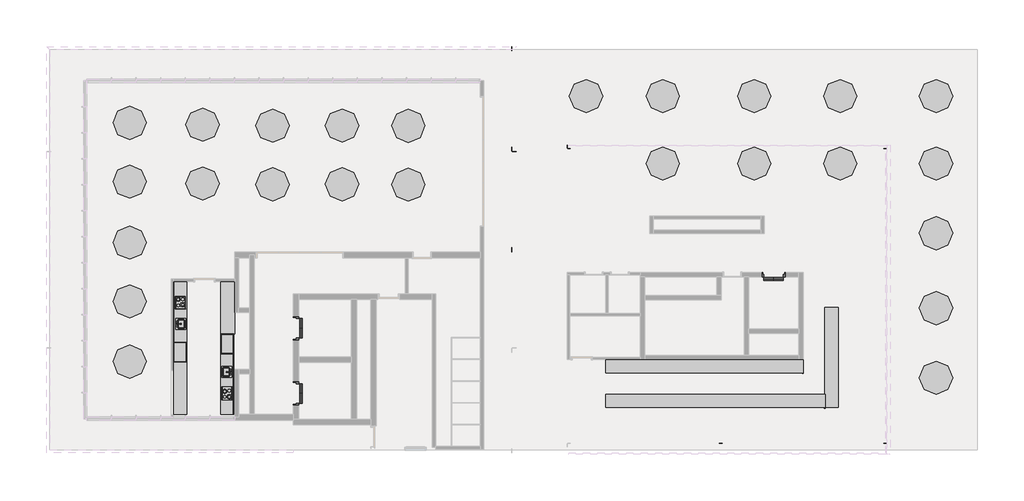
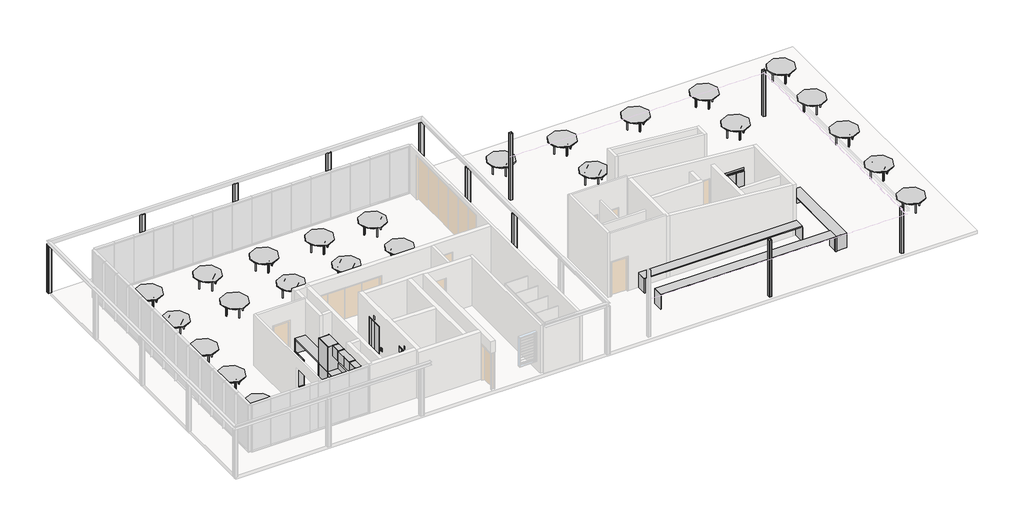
# One storey, part 4 of 4: 32 furniture elements, 11 columns, 3 proxies, 2 flow terminals.
"""IFC4 building model written with IfcOpenShell, lengths in millimetres."""

from ifc_helpers import new_model, si_unit, point, frame, frame_2d, origin, place, context, project, spatial, polyline, circle_curve, trimmed, segment, composite_curve, outline, extrude, transform, mapped, element, save
from components import lift_single_entry_gen_type1_a187540e, lift_single_entry_gen_type1_208d8e88, kitchen_sink_single_plu_7881db86, furniture_600_deep_no_overhang_dde5dc8e, furniture_600_deep_no_overhang_7ea55c78, furniture_600_deep_no_overhang_96a87c3f, furniture_600_deep_no_overhang_b93bba7b, furniture_600_deep_no_overhang_41d87fa4, kitchen_type_02_cas3_kitchen_type_02_3700_78c6b683, table_dining_round_w_chairs_fur1_1525mm_diameter_d4790072

model = new_model("IFC4")

# Units and contexts
model_context = context("Model", 3, world=origin())
ifc_project = project(units=[si_unit("LENGTHUNIT", "METRE", prefix="MILLI")], contexts=[model_context])

# Site, building, storey
site = spatial("IfcSite", under=ifc_project)
building = spatial("IfcBuilding", under=site)
storey = spatial("IfcBuildingStorey", under=building, Name="4階", Elevation=39200.0)

# Proxies
placement = place(None, origin())
lift_single_entry_gen_type1_shape = lift_single_entry_gen_type1_a187540e(model_context)
element("IfcBuildingElementProxy", 1, Name="Lift_Single Entry_GEN : Type1", ObjectType="Lift_Single Entry_GEN : Type1", at=placement, inside=storey, context=model_context, shape_type="MappedRepresentation", body=[
    mapped(lift_single_entry_gen_type1_shape, transform((35936.0728012, 8230.005792, 39200.0), x_axis=(-1.0, 0.0, 0.0), y_axis=(0.0, -1.0, 0.0), z_axis=(0.0, 0.0, 1.0))),
])
lift_single_entry_gen_type1_2_shape = lift_single_entry_gen_type1_208d8e88(model_context)
element("IfcBuildingElementProxy", 2, Name="Lift_Single Entry_GEN : Type1", ObjectType="Lift_Single Entry_GEN : Type1", at=placement, inside=storey, context=model_context, shape_type="MappedRepresentation", body=[
    mapped(lift_single_entry_gen_type1_2_shape, transform((13819.6062665, 5561.0857154, 39200.0), x_axis=(0.0, 1.0, 0.0), y_axis=(-1.0, 0.0, 0.0), z_axis=(0.0, 0.0, 1.0))),
])
element("IfcBuildingElementProxy", 3, Name="Lift_Single Entry_GEN : Type1", ObjectType="Lift_Single Entry_GEN : Type1", at=placement, inside=storey, context=model_context, shape_type="MappedRepresentation", body=[
    mapped(lift_single_entry_gen_type1_2_shape, transform((13819.6062665, 2570.1755331, 39200.0), x_axis=(0.0, 1.0, 0.0), y_axis=(-1.0, 0.0, 0.0), z_axis=(0.0, 0.0, 1.0))),
])

# Columns
element("IfcColumn", 4, ObjectType="SHS-Square Hollow Sections-Column (AS 1163) : 150x150x5.0SHS", at=placement, inside=storey, context=model_context, shape_type="SweptSolid", body=[
    extrude(outline(composite_curve([segment(polyline([(40782.9585166, 335.0), (40782.9585166, 465.0)]), True, "CONTINUOUS"), segment(trimmed(circle_curve(frame_2d((40792.9585166, 465.0)), 10.0), [point((40782.9585166, 465.0))], [point((40792.9585166, 475.0))], False, "CARTESIAN"), True, "CONTINUOUS"), segment(polyline([(40792.9585166, 475.0), (40922.9585166, 475.0)]), True, "CONTINUOUS"), segment(trimmed(circle_curve(frame_2d((40922.9585166, 465.0)), 10.0), [point((40922.9585166, 475.0))], [point((40932.9585166, 465.0))], False, "CARTESIAN"), True, "CONTINUOUS"), segment(polyline([(40932.9585166, 465.0), (40932.9585166, 335.0)]), True, "CONTINUOUS"), segment(trimmed(circle_curve(frame_2d((40922.9585166, 335.0)), 10.0), [point((40932.9585166, 335.0))], [point((40922.9585166, 325.0))], False, "CARTESIAN"), True, "CONTINUOUS"), segment(polyline([(40922.9585166, 325.0), (40792.9585166, 325.0)]), True, "CONTINUOUS"), segment(trimmed(circle_curve(frame_2d((40792.9585166, 335.0)), 10.0), [point((40792.9585166, 325.0))], [point((40782.9585166, 335.0))], False, "CARTESIAN"), True, "CONTINUOUS")], self_intersect=False), holes=[composite_curve([segment(polyline([(40922.9585166, 470.0), (40792.9585166, 470.0)]), True, "CONTINUOUS"), segment(trimmed(circle_curve(frame_2d((40792.9585166, 465.0)), 5.0), [point((40792.9585166, 470.0))], [point((40787.9585166, 465.0))], True, "CARTESIAN"), True, "CONTINUOUS"), segment(polyline([(40787.9585166, 465.0), (40787.9585166, 335.0)]), True, "CONTINUOUS"), segment(trimmed(circle_curve(frame_2d((40792.9585166, 335.0)), 5.0), [point((40787.9585166, 335.0))], [point((40792.9585166, 330.0))], True, "CARTESIAN"), True, "CONTINUOUS"), segment(polyline([(40792.9585166, 330.0), (40922.9585166, 330.0)]), True, "CONTINUOUS"), segment(trimmed(circle_curve(frame_2d((40922.9585166, 335.0)), 5.0), [point((40922.9585166, 330.0))], [point((40927.9585166, 335.0))], True, "CARTESIAN"), True, "CONTINUOUS"), segment(polyline([(40927.9585166, 335.0), (40927.9585166, 465.0)]), True, "CONTINUOUS"), segment(trimmed(circle_curve(frame_2d((40922.9585166, 465.0)), 5.0), [point((40927.9585166, 465.0))], [point((40922.9585166, 470.0))], True, "CARTESIAN"), True, "CONTINUOUS")], self_intersect=False)]), frame((0.0, 0.0, 39200.0), z_axis=(0.0, 0.0, 1.0), x_axis=(1.0, 0.0, 0.0)), (0.0, 0.0, 1.0), 2769.6603043),
])
element("IfcColumn", 5, ObjectType="SHS-Square Hollow Sections-Column (AS 1163) : 150x150x5.0SHS", at=placement, inside=storey, context=model_context, shape_type="SweptSolid", body=[
    extrude(outline(composite_curve([segment(polyline([(33227.1585166, 335.0), (33227.1585166, 465.0)]), True, "CONTINUOUS"), segment(trimmed(circle_curve(frame_2d((33237.1585166, 465.0)), 10.0), [point((33227.1585166, 465.0))], [point((33237.1585166, 475.0))], False, "CARTESIAN"), True, "CONTINUOUS"), segment(polyline([(33237.1585166, 475.0), (33367.1585166, 475.0)]), True, "CONTINUOUS"), segment(trimmed(circle_curve(frame_2d((33367.1585166, 465.0)), 10.0), [point((33367.1585166, 475.0))], [point((33377.1585166, 465.0))], False, "CARTESIAN"), True, "CONTINUOUS"), segment(polyline([(33377.1585166, 465.0), (33377.1585166, 335.0)]), True, "CONTINUOUS"), segment(trimmed(circle_curve(frame_2d((33367.1585166, 335.0)), 10.0), [point((33377.1585166, 335.0))], [point((33367.1585166, 325.0))], False, "CARTESIAN"), True, "CONTINUOUS"), segment(polyline([(33367.1585166, 325.0), (33237.1585166, 325.0)]), True, "CONTINUOUS"), segment(trimmed(circle_curve(frame_2d((33237.1585166, 335.0)), 10.0), [point((33237.1585166, 325.0))], [point((33227.1585166, 335.0))], False, "CARTESIAN"), True, "CONTINUOUS")], self_intersect=False), holes=[composite_curve([segment(polyline([(33367.1585166, 470.0), (33237.1585166, 470.0)]), True, "CONTINUOUS"), segment(trimmed(circle_curve(frame_2d((33237.1585166, 465.0)), 5.0), [point((33237.1585166, 470.0))], [point((33232.1585166, 465.0))], True, "CARTESIAN"), True, "CONTINUOUS"), segment(polyline([(33232.1585166, 465.0), (33232.1585166, 335.0)]), True, "CONTINUOUS"), segment(trimmed(circle_curve(frame_2d((33237.1585166, 335.0)), 5.0), [point((33232.1585166, 335.0))], [point((33237.1585166, 330.0))], True, "CARTESIAN"), True, "CONTINUOUS"), segment(polyline([(33237.1585166, 330.0), (33367.1585166, 330.0)]), True, "CONTINUOUS"), segment(trimmed(circle_curve(frame_2d((33367.1585166, 335.0)), 5.0), [point((33367.1585166, 330.0))], [point((33372.1585166, 335.0))], True, "CARTESIAN"), True, "CONTINUOUS"), segment(polyline([(33372.1585166, 335.0), (33372.1585166, 465.0)]), True, "CONTINUOUS"), segment(trimmed(circle_curve(frame_2d((33367.1585166, 465.0)), 5.0), [point((33372.1585166, 465.0))], [point((33367.1585166, 470.0))], True, "CARTESIAN"), True, "CONTINUOUS")], self_intersect=False)]), frame((0.0, 0.0, 39200.0), z_axis=(0.0, 0.0, 1.0), x_axis=(1.0, 0.0, 0.0)), (0.0, 0.0, 1.0), 3424.1454984),
])
element("IfcColumn", 6, ObjectType="SHS-Square Hollow Sections-Column (AS 1163) : 150x150x5.0SHS", at=placement, inside=storey, context=model_context, shape_type="SweptSolid", body=[
    extrude(outline(composite_curve([segment(polyline([(40782.9585166, 14040.8213727), (40782.9585166, 14170.8213727)]), True, "CONTINUOUS"), segment(trimmed(circle_curve(frame_2d((40792.9585166, 14170.8213727)), 10.0), [point((40782.9585166, 14170.8213727))], [point((40792.9585166, 14180.8213727))], False, "CARTESIAN"), True, "CONTINUOUS"), segment(polyline([(40792.9585166, 14180.8213727), (40922.9585166, 14180.8213727)]), True, "CONTINUOUS"), segment(trimmed(circle_curve(frame_2d((40922.9585166, 14170.8213727)), 10.0), [point((40922.9585166, 14180.8213727))], [point((40932.9585166, 14170.8213727))], False, "CARTESIAN"), True, "CONTINUOUS"), segment(polyline([(40932.9585166, 14170.8213727), (40932.9585166, 14040.8213727)]), True, "CONTINUOUS"), segment(trimmed(circle_curve(frame_2d((40922.9585166, 14040.8213727)), 10.0), [point((40932.9585166, 14040.8213727))], [point((40922.9585166, 14030.8213727))], False, "CARTESIAN"), True, "CONTINUOUS"), segment(polyline([(40922.9585166, 14030.8213727), (40792.9585166, 14030.8213727)]), True, "CONTINUOUS"), segment(trimmed(circle_curve(frame_2d((40792.9585166, 14040.8213727)), 10.0), [point((40792.9585166, 14030.8213727))], [point((40782.9585166, 14040.8213727))], False, "CARTESIAN"), True, "CONTINUOUS")], self_intersect=False), holes=[composite_curve([segment(polyline([(40922.9585166, 14175.8213727), (40792.9585166, 14175.8213727)]), True, "CONTINUOUS"), segment(trimmed(circle_curve(frame_2d((40792.9585166, 14170.8213727)), 5.0), [point((40792.9585166, 14175.8213727))], [point((40787.9585166, 14170.8213727))], True, "CARTESIAN"), True, "CONTINUOUS"), segment(polyline([(40787.9585166, 14170.8213727), (40787.9585166, 14040.8213727)]), True, "CONTINUOUS"), segment(trimmed(circle_curve(frame_2d((40792.9585166, 14040.8213727)), 5.0), [point((40787.9585166, 14040.8213727))], [point((40792.9585166, 14035.8213727))], True, "CARTESIAN"), True, "CONTINUOUS"), segment(polyline([(40792.9585166, 14035.8213727), (40922.9585166, 14035.8213727)]), True, "CONTINUOUS"), segment(trimmed(circle_curve(frame_2d((40922.9585166, 14040.8213727)), 5.0), [point((40922.9585166, 14035.8213727))], [point((40927.9585166, 14040.8213727))], True, "CARTESIAN"), True, "CONTINUOUS"), segment(polyline([(40927.9585166, 14040.8213727), (40927.9585166, 14170.8213727)]), True, "CONTINUOUS"), segment(trimmed(circle_curve(frame_2d((40922.9585166, 14170.8213727)), 5.0), [point((40927.9585166, 14170.8213727))], [point((40922.9585166, 14175.8213727))], True, "CARTESIAN"), True, "CONTINUOUS")], self_intersect=False)]), frame((0.0, 0.0, 39200.0), z_axis=(0.0, 0.0, 1.0), x_axis=(1.0, 0.0, 0.0)), (0.0, 0.0, 1.0), 2769.6603043),
])
element("IfcColumn", 7, ObjectType="SHS-Square Hollow Sections-Column (AS 1163) : 150x150x5.0SHS", at=placement, inside=storey, context=model_context, shape_type="SweptSolid", body=[
    extrude(outline(composite_curve([segment(polyline([(26271.3585166, 14040.8213727), (26271.3585166, 14170.8213727)]), True, "CONTINUOUS"), segment(trimmed(circle_curve(frame_2d((26281.3585166, 14170.8213727)), 10.0), [point((26271.3585166, 14170.8213727))], [point((26281.3585166, 14180.8213727))], False, "CARTESIAN"), True, "CONTINUOUS"), segment(polyline([(26281.3585166, 14180.8213727), (26411.3585166, 14180.8213727)]), True, "CONTINUOUS"), segment(trimmed(circle_curve(frame_2d((26411.3585166, 14170.8213727)), 10.0), [point((26411.3585166, 14180.8213727))], [point((26421.3585166, 14170.8213727))], False, "CARTESIAN"), True, "CONTINUOUS"), segment(polyline([(26421.3585166, 14170.8213727), (26421.3585166, 14040.8213727)]), True, "CONTINUOUS"), segment(trimmed(circle_curve(frame_2d((26411.3585166, 14040.8213727)), 10.0), [point((26421.3585166, 14040.8213727))], [point((26411.3585166, 14030.8213727))], False, "CARTESIAN"), True, "CONTINUOUS"), segment(polyline([(26411.3585166, 14030.8213727), (26281.3585166, 14030.8213727)]), True, "CONTINUOUS"), segment(trimmed(circle_curve(frame_2d((26281.3585166, 14040.8213727)), 10.0), [point((26281.3585166, 14030.8213727))], [point((26271.3585166, 14040.8213727))], False, "CARTESIAN"), True, "CONTINUOUS")], self_intersect=False), holes=[composite_curve([segment(polyline([(26411.3585166, 14175.8213727), (26281.3585166, 14175.8213727)]), True, "CONTINUOUS"), segment(trimmed(circle_curve(frame_2d((26281.3585166, 14170.8213727)), 5.0), [point((26281.3585166, 14175.8213727))], [point((26276.3585166, 14170.8213727))], True, "CARTESIAN"), True, "CONTINUOUS"), segment(polyline([(26276.3585166, 14170.8213727), (26276.3585166, 14040.8213727)]), True, "CONTINUOUS"), segment(trimmed(circle_curve(frame_2d((26281.3585166, 14040.8213727)), 5.0), [point((26276.3585166, 14040.8213727))], [point((26281.3585166, 14035.8213727))], True, "CARTESIAN"), True, "CONTINUOUS"), segment(polyline([(26281.3585166, 14035.8213727), (26411.3585166, 14035.8213727)]), True, "CONTINUOUS"), segment(trimmed(circle_curve(frame_2d((26411.3585166, 14040.8213727)), 5.0), [point((26411.3585166, 14035.8213727))], [point((26416.3585166, 14040.8213727))], True, "CARTESIAN"), True, "CONTINUOUS"), segment(polyline([(26416.3585166, 14040.8213727), (26416.3585166, 14170.8213727)]), True, "CONTINUOUS"), segment(trimmed(circle_curve(frame_2d((26411.3585166, 14170.8213727)), 5.0), [point((26416.3585166, 14170.8213727))], [point((26411.3585166, 14175.8213727))], True, "CARTESIAN"), True, "CONTINUOUS")], self_intersect=False)]), frame((0.0, 0.0, 39200.0), z_axis=(0.0, 0.0, 1.0), x_axis=(1.0, 0.0, 0.0)), (0.0, 0.0, 1.0), 4032.6991441),
])
element("IfcColumn", 8, ObjectType="SHS-Square Hollow Sections-Column (AS 1163) : 200x200x5.0SHS 2", at=placement, inside=storey, context=model_context, shape_type="SweptSolid", body=[
    extrude(outline(composite_curve([segment(polyline([(2369.6057353, 18520.0), (2369.6057353, 18700.0)]), True, "CONTINUOUS"), segment(trimmed(circle_curve(frame_2d((2379.6057353, 18700.0)), 10.0), [point((2369.6057353, 18700.0))], [point((2379.6057353, 18710.0))], False, "CARTESIAN"), True, "CONTINUOUS"), segment(polyline([(2379.6057353, 18710.0), (2559.6057353, 18710.0)]), True, "CONTINUOUS"), segment(trimmed(circle_curve(frame_2d((2559.6057353, 18700.0)), 10.0), [point((2559.6057353, 18710.0))], [point((2569.6057353, 18700.0))], False, "CARTESIAN"), True, "CONTINUOUS"), segment(polyline([(2569.6057353, 18700.0), (2569.6057353, 18520.0)]), True, "CONTINUOUS"), segment(trimmed(circle_curve(frame_2d((2559.6057353, 18520.0)), 10.0), [point((2569.6057353, 18520.0))], [point((2559.6057353, 18510.0))], False, "CARTESIAN"), True, "CONTINUOUS"), segment(polyline([(2559.6057353, 18510.0), (2379.6057353, 18510.0)]), True, "CONTINUOUS"), segment(trimmed(circle_curve(frame_2d((2379.6057353, 18520.0)), 10.0), [point((2379.6057353, 18510.0))], [point((2369.6057353, 18520.0))], False, "CARTESIAN"), True, "CONTINUOUS")], self_intersect=False), holes=[composite_curve([segment(polyline([(2559.6057353, 18705.0), (2379.6057353, 18705.0)]), True, "CONTINUOUS"), segment(trimmed(circle_curve(frame_2d((2379.6057353, 18700.0)), 5.0), [point((2379.6057353, 18705.0))], [point((2374.6057353, 18700.0))], True, "CARTESIAN"), True, "CONTINUOUS"), segment(polyline([(2374.6057353, 18700.0), (2374.6057353, 18520.0)]), True, "CONTINUOUS"), segment(trimmed(circle_curve(frame_2d((2379.6057353, 18520.0)), 5.0), [point((2374.6057353, 18520.0))], [point((2379.6057353, 18515.0))], True, "CARTESIAN"), True, "CONTINUOUS"), segment(polyline([(2379.6057353, 18515.0), (2559.6057353, 18515.0)]), True, "CONTINUOUS"), segment(trimmed(circle_curve(frame_2d((2559.6057353, 18520.0)), 5.0), [point((2559.6057353, 18515.0))], [point((2564.6057353, 18520.0))], True, "CARTESIAN"), True, "CONTINUOUS"), segment(polyline([(2564.6057353, 18520.0), (2564.6057353, 18700.0)]), True, "CONTINUOUS"), segment(trimmed(circle_curve(frame_2d((2559.6057353, 18700.0)), 5.0), [point((2564.6057353, 18700.0))], [point((2559.6057353, 18705.0))], True, "CARTESIAN"), True, "CONTINUOUS")], self_intersect=False)]), frame((0.0, 0.0, 39200.0), z_axis=(0.0, 0.0, 1.0), x_axis=(1.0, 0.0, 0.0)), (0.0, 0.0, 1.0), 2900.0),
])
element("IfcColumn", 9, ObjectType="SHS-Square Hollow Sections-Column (AS 1163) : 200x200x5.0SHS 2", at=placement, inside=storey, context=model_context, shape_type="SweptSolid", body=[
    extrude(outline(composite_curve([segment(polyline([(23723.6171203, 18520.0), (23723.6171203, 18700.0)]), True, "CONTINUOUS"), segment(trimmed(circle_curve(frame_2d((23733.6171203, 18700.0)), 10.0), [point((23723.6171203, 18700.0))], [point((23733.6171203, 18710.0))], False, "CARTESIAN"), True, "CONTINUOUS"), segment(polyline([(23733.6171203, 18710.0), (23913.6171203, 18710.0)]), True, "CONTINUOUS"), segment(trimmed(circle_curve(frame_2d((23913.6171203, 18700.0)), 10.0), [point((23913.6171203, 18710.0))], [point((23923.6171203, 18700.0))], False, "CARTESIAN"), True, "CONTINUOUS"), segment(polyline([(23923.6171203, 18700.0), (23923.6171203, 18520.0)]), True, "CONTINUOUS"), segment(trimmed(circle_curve(frame_2d((23913.6171203, 18520.0)), 10.0), [point((23923.6171203, 18520.0))], [point((23913.6171203, 18510.0))], False, "CARTESIAN"), True, "CONTINUOUS"), segment(polyline([(23913.6171203, 18510.0), (23733.6171203, 18510.0)]), True, "CONTINUOUS"), segment(trimmed(circle_curve(frame_2d((23733.6171203, 18520.0)), 10.0), [point((23733.6171203, 18510.0))], [point((23723.6171203, 18520.0))], False, "CARTESIAN"), True, "CONTINUOUS")], self_intersect=False), holes=[composite_curve([segment(polyline([(23913.6171203, 18705.0), (23733.6171203, 18705.0)]), True, "CONTINUOUS"), segment(trimmed(circle_curve(frame_2d((23733.6171203, 18700.0)), 5.0), [point((23733.6171203, 18705.0))], [point((23728.6171203, 18700.0))], True, "CARTESIAN"), True, "CONTINUOUS"), segment(polyline([(23728.6171203, 18700.0), (23728.6171203, 18520.0)]), True, "CONTINUOUS"), segment(trimmed(circle_curve(frame_2d((23733.6171203, 18520.0)), 5.0), [point((23728.6171203, 18520.0))], [point((23733.6171203, 18515.0))], True, "CARTESIAN"), True, "CONTINUOUS"), segment(polyline([(23733.6171203, 18515.0), (23913.6171203, 18515.0)]), True, "CONTINUOUS"), segment(trimmed(circle_curve(frame_2d((23913.6171203, 18520.0)), 5.0), [point((23913.6171203, 18515.0))], [point((23918.6171203, 18520.0))], True, "CARTESIAN"), True, "CONTINUOUS"), segment(polyline([(23918.6171203, 18520.0), (23918.6171203, 18700.0)]), True, "CONTINUOUS"), segment(trimmed(circle_curve(frame_2d((23913.6171203, 18700.0)), 5.0), [point((23918.6171203, 18700.0))], [point((23913.6171203, 18705.0))], True, "CARTESIAN"), True, "CONTINUOUS")], self_intersect=False)]), frame((0.0, 0.0, 39200.0), z_axis=(0.0, 0.0, 1.0), x_axis=(1.0, 0.0, 0.0)), (0.0, 0.0, 1.0), 2900.0),
])
element("IfcColumn", 10, ObjectType="SHS-Square Hollow Sections-Column (AS 1163) : 200x200x5.0SHS 2", at=placement, inside=storey, context=model_context, shape_type="SweptSolid", body=[
    extrude(outline(composite_curve([segment(polyline([(18386.1171203, 18520.0), (18386.1171203, 18700.0)]), True, "CONTINUOUS"), segment(trimmed(circle_curve(frame_2d((18396.1171203, 18700.0)), 10.0), [point((18386.1171203, 18700.0))], [point((18396.1171203, 18710.0))], False, "CARTESIAN"), True, "CONTINUOUS"), segment(polyline([(18396.1171203, 18710.0), (18576.1171203, 18710.0)]), True, "CONTINUOUS"), segment(trimmed(circle_curve(frame_2d((18576.1171203, 18700.0)), 10.0), [point((18576.1171203, 18710.0))], [point((18586.1171203, 18700.0))], False, "CARTESIAN"), True, "CONTINUOUS"), segment(polyline([(18586.1171203, 18700.0), (18586.1171203, 18520.0)]), True, "CONTINUOUS"), segment(trimmed(circle_curve(frame_2d((18576.1171203, 18520.0)), 10.0), [point((18586.1171203, 18520.0))], [point((18576.1171203, 18510.0))], False, "CARTESIAN"), True, "CONTINUOUS"), segment(polyline([(18576.1171203, 18510.0), (18396.1171203, 18510.0)]), True, "CONTINUOUS"), segment(trimmed(circle_curve(frame_2d((18396.1171203, 18520.0)), 10.0), [point((18396.1171203, 18510.0))], [point((18386.1171203, 18520.0))], False, "CARTESIAN"), True, "CONTINUOUS")], self_intersect=False), holes=[composite_curve([segment(polyline([(18576.1171203, 18705.0), (18396.1171203, 18705.0)]), True, "CONTINUOUS"), segment(trimmed(circle_curve(frame_2d((18396.1171203, 18700.0)), 5.0), [point((18396.1171203, 18705.0))], [point((18391.1171203, 18700.0))], True, "CARTESIAN"), True, "CONTINUOUS"), segment(polyline([(18391.1171203, 18700.0), (18391.1171203, 18520.0)]), True, "CONTINUOUS"), segment(trimmed(circle_curve(frame_2d((18396.1171203, 18520.0)), 5.0), [point((18391.1171203, 18520.0))], [point((18396.1171203, 18515.0))], True, "CARTESIAN"), True, "CONTINUOUS"), segment(polyline([(18396.1171203, 18515.0), (18576.1171203, 18515.0)]), True, "CONTINUOUS"), segment(trimmed(circle_curve(frame_2d((18576.1171203, 18520.0)), 5.0), [point((18576.1171203, 18515.0))], [point((18581.1171203, 18520.0))], True, "CARTESIAN"), True, "CONTINUOUS"), segment(polyline([(18581.1171203, 18520.0), (18581.1171203, 18700.0)]), True, "CONTINUOUS"), segment(trimmed(circle_curve(frame_2d((18576.1171203, 18700.0)), 5.0), [point((18581.1171203, 18700.0))], [point((18576.1171203, 18705.0))], True, "CARTESIAN"), True, "CONTINUOUS")], self_intersect=False)]), frame((0.0, 0.0, 39200.0), z_axis=(0.0, 0.0, 1.0), x_axis=(1.0, 0.0, 0.0)), (0.0, 0.0, 1.0), 2900.0),
])
element("IfcColumn", 11, ObjectType="SHS-Square Hollow Sections-Column (AS 1163) : 200x200x5.0SHS 2", at=placement, inside=storey, context=model_context, shape_type="SweptSolid", body=[
    extrude(outline(composite_curve([segment(polyline([(13048.6171203, 18520.0), (13048.6171203, 18700.0)]), True, "CONTINUOUS"), segment(trimmed(circle_curve(frame_2d((13058.6171203, 18700.0)), 10.0), [point((13048.6171203, 18700.0))], [point((13058.6171203, 18710.0))], False, "CARTESIAN"), True, "CONTINUOUS"), segment(polyline([(13058.6171203, 18710.0), (13238.6171203, 18710.0)]), True, "CONTINUOUS"), segment(trimmed(circle_curve(frame_2d((13238.6171203, 18700.0)), 10.0), [point((13238.6171203, 18710.0))], [point((13248.6171203, 18700.0))], False, "CARTESIAN"), True, "CONTINUOUS"), segment(polyline([(13248.6171203, 18700.0), (13248.6171203, 18520.0)]), True, "CONTINUOUS"), segment(trimmed(circle_curve(frame_2d((13238.6171203, 18520.0)), 10.0), [point((13248.6171203, 18520.0))], [point((13238.6171203, 18510.0))], False, "CARTESIAN"), True, "CONTINUOUS"), segment(polyline([(13238.6171203, 18510.0), (13058.6171203, 18510.0)]), True, "CONTINUOUS"), segment(trimmed(circle_curve(frame_2d((13058.6171203, 18520.0)), 10.0), [point((13058.6171203, 18510.0))], [point((13048.6171203, 18520.0))], False, "CARTESIAN"), True, "CONTINUOUS")], self_intersect=False), holes=[composite_curve([segment(polyline([(13238.6171203, 18705.0), (13058.6171203, 18705.0)]), True, "CONTINUOUS"), segment(trimmed(circle_curve(frame_2d((13058.6171203, 18700.0)), 5.0), [point((13058.6171203, 18705.0))], [point((13053.6171203, 18700.0))], True, "CARTESIAN"), True, "CONTINUOUS"), segment(polyline([(13053.6171203, 18700.0), (13053.6171203, 18520.0)]), True, "CONTINUOUS"), segment(trimmed(circle_curve(frame_2d((13058.6171203, 18520.0)), 5.0), [point((13053.6171203, 18520.0))], [point((13058.6171203, 18515.0))], True, "CARTESIAN"), True, "CONTINUOUS"), segment(polyline([(13058.6171203, 18515.0), (13238.6171203, 18515.0)]), True, "CONTINUOUS"), segment(trimmed(circle_curve(frame_2d((13238.6171203, 18520.0)), 5.0), [point((13238.6171203, 18515.0))], [point((13243.6171203, 18520.0))], True, "CARTESIAN"), True, "CONTINUOUS"), segment(polyline([(13243.6171203, 18520.0), (13243.6171203, 18700.0)]), True, "CONTINUOUS"), segment(trimmed(circle_curve(frame_2d((13238.6171203, 18700.0)), 5.0), [point((13243.6171203, 18700.0))], [point((13238.6171203, 18705.0))], True, "CARTESIAN"), True, "CONTINUOUS")], self_intersect=False)]), frame((0.0, 0.0, 39200.0), z_axis=(0.0, 0.0, 1.0), x_axis=(1.0, 0.0, 0.0)), (0.0, 0.0, 1.0), 2900.0),
])
element("IfcColumn", 12, ObjectType="SHS-Square Hollow Sections-Column (AS 1163) : 200x200x5.0SHS 2", at=placement, inside=storey, context=model_context, shape_type="SweptSolid", body=[
    extrude(outline(composite_curve([segment(polyline([(7715.127974, 18520.0), (7715.127974, 18700.0)]), True, "CONTINUOUS"), segment(trimmed(circle_curve(frame_2d((7725.127974, 18700.0)), 10.0), [point((7715.127974, 18700.0))], [point((7725.127974, 18710.0))], False, "CARTESIAN"), True, "CONTINUOUS"), segment(polyline([(7725.127974, 18710.0), (7905.127974, 18710.0)]), True, "CONTINUOUS"), segment(trimmed(circle_curve(frame_2d((7905.127974, 18700.0)), 10.0), [point((7905.127974, 18710.0))], [point((7915.127974, 18700.0))], False, "CARTESIAN"), True, "CONTINUOUS"), segment(polyline([(7915.127974, 18700.0), (7915.127974, 18520.0)]), True, "CONTINUOUS"), segment(trimmed(circle_curve(frame_2d((7905.127974, 18520.0)), 10.0), [point((7915.127974, 18520.0))], [point((7905.127974, 18510.0))], False, "CARTESIAN"), True, "CONTINUOUS"), segment(polyline([(7905.127974, 18510.0), (7725.127974, 18510.0)]), True, "CONTINUOUS"), segment(trimmed(circle_curve(frame_2d((7725.127974, 18520.0)), 10.0), [point((7725.127974, 18510.0))], [point((7715.127974, 18520.0))], False, "CARTESIAN"), True, "CONTINUOUS")], self_intersect=False), holes=[composite_curve([segment(polyline([(7905.127974, 18705.0), (7725.127974, 18705.0)]), True, "CONTINUOUS"), segment(trimmed(circle_curve(frame_2d((7725.127974, 18700.0)), 5.0), [point((7725.127974, 18705.0))], [point((7720.127974, 18700.0))], True, "CARTESIAN"), True, "CONTINUOUS"), segment(polyline([(7720.127974, 18700.0), (7720.127974, 18520.0)]), True, "CONTINUOUS"), segment(trimmed(circle_curve(frame_2d((7725.127974, 18520.0)), 5.0), [point((7720.127974, 18520.0))], [point((7725.127974, 18515.0))], True, "CARTESIAN"), True, "CONTINUOUS"), segment(polyline([(7725.127974, 18515.0), (7905.127974, 18515.0)]), True, "CONTINUOUS"), segment(trimmed(circle_curve(frame_2d((7905.127974, 18520.0)), 5.0), [point((7905.127974, 18515.0))], [point((7910.127974, 18520.0))], True, "CARTESIAN"), True, "CONTINUOUS"), segment(polyline([(7910.127974, 18520.0), (7910.127974, 18700.0)]), True, "CONTINUOUS"), segment(trimmed(circle_curve(frame_2d((7905.127974, 18700.0)), 5.0), [point((7910.127974, 18700.0))], [point((7905.127974, 18705.0))], True, "CARTESIAN"), True, "CONTINUOUS")], self_intersect=False)]), frame((0.0, 0.0, 39200.0), z_axis=(0.0, 0.0, 1.0), x_axis=(1.0, 0.0, 0.0)), (0.0, 0.0, 1.0), 2900.0),
])
element("IfcColumn", 13, ObjectType="SHS-Square Hollow Sections-Column (AS 1163) : 200x200x5.0SHS 2", at=placement, inside=storey, context=model_context, shape_type="SweptSolid", body=[
    extrude(outline(composite_curve([segment(polyline([(23723.6171203, 9284.0898177), (23723.6171203, 9464.0898177)]), True, "CONTINUOUS"), segment(trimmed(circle_curve(frame_2d((23733.6171203, 9464.0898177)), 10.0), [point((23723.6171203, 9464.0898177))], [point((23733.6171203, 9474.0898177))], False, "CARTESIAN"), True, "CONTINUOUS"), segment(polyline([(23733.6171203, 9474.0898177), (23913.6171203, 9474.0898177)]), True, "CONTINUOUS"), segment(trimmed(circle_curve(frame_2d((23913.6171203, 9464.0898177)), 10.0), [point((23913.6171203, 9474.0898177))], [point((23923.6171203, 9464.0898177))], False, "CARTESIAN"), True, "CONTINUOUS"), segment(polyline([(23923.6171203, 9464.0898177), (23923.6171203, 9284.0898177)]), True, "CONTINUOUS"), segment(trimmed(circle_curve(frame_2d((23913.6171203, 9284.0898177)), 10.0), [point((23923.6171203, 9284.0898177))], [point((23913.6171203, 9274.0898177))], False, "CARTESIAN"), True, "CONTINUOUS"), segment(polyline([(23913.6171203, 9274.0898177), (23733.6171203, 9274.0898177)]), True, "CONTINUOUS"), segment(trimmed(circle_curve(frame_2d((23733.6171203, 9284.0898177)), 10.0), [point((23733.6171203, 9274.0898177))], [point((23723.6171203, 9284.0898177))], False, "CARTESIAN"), True, "CONTINUOUS")], self_intersect=False), holes=[composite_curve([segment(polyline([(23913.6171203, 9469.0898177), (23733.6171203, 9469.0898177)]), True, "CONTINUOUS"), segment(trimmed(circle_curve(frame_2d((23733.6171203, 9464.0898177)), 5.0), [point((23733.6171203, 9469.0898177))], [point((23728.6171203, 9464.0898177))], True, "CARTESIAN"), True, "CONTINUOUS"), segment(polyline([(23728.6171203, 9464.0898177), (23728.6171203, 9284.0898177)]), True, "CONTINUOUS"), segment(trimmed(circle_curve(frame_2d((23733.6171203, 9284.0898177)), 5.0), [point((23728.6171203, 9284.0898177))], [point((23733.6171203, 9279.0898177))], True, "CARTESIAN"), True, "CONTINUOUS"), segment(polyline([(23733.6171203, 9279.0898177), (23913.6171203, 9279.0898177)]), True, "CONTINUOUS"), segment(trimmed(circle_curve(frame_2d((23913.6171203, 9284.0898177)), 5.0), [point((23913.6171203, 9279.0898177))], [point((23918.6171203, 9284.0898177))], True, "CARTESIAN"), True, "CONTINUOUS"), segment(polyline([(23918.6171203, 9284.0898177), (23918.6171203, 9464.0898177)]), True, "CONTINUOUS"), segment(trimmed(circle_curve(frame_2d((23913.6171203, 9464.0898177)), 5.0), [point((23918.6171203, 9464.0898177))], [point((23913.6171203, 9469.0898177))], True, "CARTESIAN"), True, "CONTINUOUS")], self_intersect=False)]), frame((0.0, 0.0, 39200.0), z_axis=(0.0, 0.0, 1.0), x_axis=(1.0, 0.0, 0.0)), (0.0, 0.0, 1.0), 2900.0),
])
element("IfcColumn", 14, ObjectType="SHS-Square Hollow Sections-Column (AS 1163) : 200x200x5.0SHS 2", at=placement, inside=storey, context=model_context, shape_type="SweptSolid", body=[
    extrude(outline(composite_curve([segment(polyline([(23723.6171203, 13901.5898177), (23723.6171203, 14081.5898177)]), True, "CONTINUOUS"), segment(trimmed(circle_curve(frame_2d((23733.6171203, 14081.5898177)), 10.0), [point((23723.6171203, 14081.5898177))], [point((23733.6171203, 14091.5898177))], False, "CARTESIAN"), True, "CONTINUOUS"), segment(polyline([(23733.6171203, 14091.5898177), (23913.6171203, 14091.5898177)]), True, "CONTINUOUS"), segment(trimmed(circle_curve(frame_2d((23913.6171203, 14081.5898177)), 10.0), [point((23913.6171203, 14091.5898177))], [point((23923.6171203, 14081.5898177))], False, "CARTESIAN"), True, "CONTINUOUS"), segment(polyline([(23923.6171203, 14081.5898177), (23923.6171203, 13901.5898177)]), True, "CONTINUOUS"), segment(trimmed(circle_curve(frame_2d((23913.6171203, 13901.5898177)), 10.0), [point((23923.6171203, 13901.5898177))], [point((23913.6171203, 13891.5898177))], False, "CARTESIAN"), True, "CONTINUOUS"), segment(polyline([(23913.6171203, 13891.5898177), (23733.6171203, 13891.5898177)]), True, "CONTINUOUS"), segment(trimmed(circle_curve(frame_2d((23733.6171203, 13901.5898177)), 10.0), [point((23733.6171203, 13891.5898177))], [point((23723.6171203, 13901.5898177))], False, "CARTESIAN"), True, "CONTINUOUS")], self_intersect=False), holes=[composite_curve([segment(polyline([(23913.6171203, 14086.5898177), (23733.6171203, 14086.5898177)]), True, "CONTINUOUS"), segment(trimmed(circle_curve(frame_2d((23733.6171203, 14081.5898177)), 5.0), [point((23733.6171203, 14086.5898177))], [point((23728.6171203, 14081.5898177))], True, "CARTESIAN"), True, "CONTINUOUS"), segment(polyline([(23728.6171203, 14081.5898177), (23728.6171203, 13901.5898177)]), True, "CONTINUOUS"), segment(trimmed(circle_curve(frame_2d((23733.6171203, 13901.5898177)), 5.0), [point((23728.6171203, 13901.5898177))], [point((23733.6171203, 13896.5898177))], True, "CARTESIAN"), True, "CONTINUOUS"), segment(polyline([(23733.6171203, 13896.5898177), (23913.6171203, 13896.5898177)]), True, "CONTINUOUS"), segment(trimmed(circle_curve(frame_2d((23913.6171203, 13901.5898177)), 5.0), [point((23913.6171203, 13896.5898177))], [point((23918.6171203, 13901.5898177))], True, "CARTESIAN"), True, "CONTINUOUS"), segment(polyline([(23918.6171203, 13901.5898177), (23918.6171203, 14081.5898177)]), True, "CONTINUOUS"), segment(trimmed(circle_curve(frame_2d((23913.6171203, 14081.5898177)), 5.0), [point((23918.6171203, 14081.5898177))], [point((23913.6171203, 14086.5898177))], True, "CARTESIAN"), True, "CONTINUOUS")], self_intersect=False)]), frame((0.0, 0.0, 39200.0), z_axis=(0.0, 0.0, 1.0), x_axis=(1.0, 0.0, 0.0)), (0.0, 0.0, 1.0), 2900.0),
])

# Flow terminals
kitchen_sink_single_plu_shape = kitchen_sink_single_plu_7881db86(model_context)
element("IfcFlowTerminal", 15, ObjectType="Kitchen_Sink_Single_PLU2 : Kitchen  Sink", at=placement, inside=storey, context=model_context, shape_type="MappedRepresentation", body=[
    mapped(kitchen_sink_single_plu_shape, transform((10635.4366413, 3758.5898177, 40100.0), x_axis=(0.0, -1.0, 0.0), y_axis=(1.0, 0.0, 0.0), z_axis=(0.0, 0.0, 1.0))),
])
element("IfcFlowTerminal", 16, ObjectType="Kitchen_Sink_Single_PLU2 : Kitchen  Sink", at=placement, inside=storey, context=model_context, shape_type="MappedRepresentation", body=[
    mapped(kitchen_sink_single_plu_shape, transform((8527.7224065, 5965.5, 40100.0), x_axis=(0.0, 1.0, 0.0), y_axis=(-1.0, 0.0, 0.0), z_axis=(0.0, 0.0, 1.0))),
])

# Furniture
furniture_600_deep_no_overhang_shape = furniture_600_deep_no_overhang_dde5dc8e(model_context)
element("IfcFurniture", 17, ObjectType="Benchtop_Optional Hole_I Shaped_CAS : 600 Deep_No Overhang", at=placement, inside=storey, context=model_context, shape_type="MappedRepresentation", body=[
    mapped(furniture_600_deep_no_overhang_shape, transform((8192.7037232, 2970.2996736, 39200.0), x_axis=(0.0, 1.0000000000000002, 0.0), y_axis=(-1.0000000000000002, 0.0, 0.0), z_axis=(0.0, 0.0, 1.0))),
])
furniture_600_deep_no_overhang_2_shape = furniture_600_deep_no_overhang_7ea55c78(model_context)
element("IfcFurniture", 18, ObjectType="Benchtop_Optional Hole_I Shaped_CAS : 600 Deep_No Overhang", at=placement, inside=storey, context=model_context, shape_type="MappedRepresentation", body=[
    mapped(furniture_600_deep_no_overhang_2_shape, transform((10366.5671425, 6664.3894912, 39200.0), x_axis=(0.0, 1.0000000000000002, 0.0), y_axis=(-1.0000000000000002, 0.0, 0.0), z_axis=(0.0, 0.0, 1.0))),
])
furniture_600_deep_no_overhang_3_shape = furniture_600_deep_no_overhang_96a87c3f(model_context)
element("IfcFurniture", 19, ObjectType="Benchtop_Optional Hole_I Shaped_CAS : 600 Deep_No Overhang", at=placement, inside=storey, context=model_context, shape_type="MappedRepresentation", body=[
    mapped(furniture_600_deep_no_overhang_3_shape, transform((38082.1585166, 3285.3054656, 39200.0), x_axis=(0.0, 1.0, 0.0), y_axis=(-1.0, 0.0, 0.0), z_axis=(0.0, 0.0, 1.0))),
])
furniture_600_deep_no_overhang_4_shape = furniture_600_deep_no_overhang_b93bba7b(model_context)
element("IfcFurniture", 20, ObjectType="Benchtop_Optional Hole_I Shaped_CAS : 600 Deep_No Overhang", at=placement, inside=storey, context=model_context, shape_type="MappedRepresentation", body=[
    mapped(furniture_600_deep_no_overhang_4_shape, transform((35926.858843, 3730.005792, 39200.0), x_axis=(-1.0, 0.0, 0.0), y_axis=(0.0, -1.0, 0.0), z_axis=(0.0, 0.0, 1.0))),
])
furniture_600_deep_no_overhang_5_shape = furniture_600_deep_no_overhang_41d87fa4(model_context)
element("IfcFurniture", 21, ObjectType="Benchtop_Optional Hole_I Shaped_CAS : 600 Deep_No Overhang", at=placement, inside=storey, context=model_context, shape_type="MappedRepresentation", body=[
    mapped(furniture_600_deep_no_overhang_5_shape, transform((36951.0445565, 2130.005792, 39200.0), x_axis=(-1.0, 0.0, 0.0), y_axis=(0.0, -1.0, 0.0), z_axis=(0.0, 0.0, 1.0))),
])
kitchen_type_02_cas3_kitchen_type_02_3700_shape = kitchen_type_02_cas3_kitchen_type_02_3700_78c6b683(model_context)
element("IfcFurniture", 22, ObjectType="Kitchen_Type 02_CAS3 : Kitchen_Type 02_3700", at=placement, inside=storey, context=model_context, shape_type="MappedRepresentation", body=[
    mapped(kitchen_type_02_cas3_kitchen_type_02_3700_shape, transform((10394.6062665, 5509.0898177, 39200.0), x_axis=(0.0, -1.0, 0.0), y_axis=(1.0, 0.0, 0.0), z_axis=(0.0, 0.0, 1.0))),
])
element("IfcFurniture", 23, ObjectType="Kitchen_Type 02_CAS3 : Kitchen_Type 02_3700", at=placement, inside=storey, context=model_context, shape_type="MappedRepresentation", body=[
    mapped(kitchen_type_02_cas3_kitchen_type_02_3700_shape, transform((8768.5527813, 4215.0, 39200.0), x_axis=(0.0, 1.0, 0.0), y_axis=(-1.0, 0.0, 0.0), z_axis=(0.0, 0.0, 1.0))),
])
table_dining_round_w_chairs_fur1_1525mm_diameter_shape = table_dining_round_w_chairs_fur1_1525mm_diameter_d4790072(model_context)
element("IfcFurniture", 24, ObjectType="Table_Dining Round w Chairs_FUR1 : 1525mm Diameter", at=placement, inside=storey, context=model_context, shape_type="MappedRepresentation", body=[
    mapped(table_dining_round_w_chairs_fur1_1525mm_diameter_shape, transform((6390.3233509, 15148.5502871, 39200.0), x_axis=(-0.7071067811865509, -0.7071067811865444, 0.0), y_axis=(0.7071067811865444, -0.7071067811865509, 0.0), z_axis=(0.0, 0.0, 1.0))),
])
element("IfcFurniture", 25, ObjectType="Table_Dining Round w Chairs_FUR1 : 1525mm Diameter", at=placement, inside=storey, context=model_context, shape_type="MappedRepresentation", body=[
    mapped(table_dining_round_w_chairs_fur1_1525mm_diameter_shape, transform((9731.6933209, 15059.8715106, 39200.0), x_axis=(-0.7071067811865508, -0.7071067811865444, 0.0), y_axis=(0.7071067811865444, -0.7071067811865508, 0.0), z_axis=(0.0, 0.0, 1.0))),
])
element("IfcFurniture", 26, ObjectType="Table_Dining Round w Chairs_FUR1 : 1525mm Diameter", at=placement, inside=storey, context=model_context, shape_type="MappedRepresentation", body=[
    mapped(table_dining_round_w_chairs_fur1_1525mm_diameter_shape, transform((12942.3936945, 15018.3341931, 39200.0), x_axis=(-0.7071067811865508, -0.7071067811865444, 0.0), y_axis=(0.7071067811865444, -0.7071067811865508, 0.0), z_axis=(0.0, 0.0, 1.0))),
])
element("IfcFurniture", 27, ObjectType="Table_Dining Round w Chairs_FUR1 : 1525mm Diameter", at=placement, inside=storey, context=model_context, shape_type="MappedRepresentation", body=[
    mapped(table_dining_round_w_chairs_fur1_1525mm_diameter_shape, transform((16131.0481087, 15024.4777535, 39200.0), x_axis=(-0.7071067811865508, -0.7071067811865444, 0.0), y_axis=(0.7071067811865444, -0.7071067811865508, 0.0), z_axis=(0.0, 0.0, 1.0))),
])
element("IfcFurniture", 28, ObjectType="Table_Dining Round w Chairs_FUR1 : 1525mm Diameter", at=placement, inside=storey, context=model_context, shape_type="MappedRepresentation", body=[
    mapped(table_dining_round_w_chairs_fur1_1525mm_diameter_shape, transform((19175.149463, 15008.118099, 39200.0), x_axis=(-0.7071067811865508, -0.7071067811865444, 0.0), y_axis=(0.7071067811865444, -0.7071067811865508, 0.0), z_axis=(0.0, 0.0, 1.0))),
])
element("IfcFurniture", 29, ObjectType="Table_Dining Round w Chairs_FUR1 : 1525mm Diameter", at=placement, inside=storey, context=model_context, shape_type="MappedRepresentation", body=[
    mapped(table_dining_round_w_chairs_fur1_1525mm_diameter_shape, transform((6390.3233509, 12448.5502871, 39200.0), x_axis=(-0.7071067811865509, -0.7071067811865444, 0.0), y_axis=(0.7071067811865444, -0.7071067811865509, 0.0), z_axis=(0.0, 0.0, 1.0))),
])
element("IfcFurniture", 30, ObjectType="Table_Dining Round w Chairs_FUR1 : 1525mm Diameter", at=placement, inside=storey, context=model_context, shape_type="MappedRepresentation", body=[
    mapped(table_dining_round_w_chairs_fur1_1525mm_diameter_shape, transform((9731.6933209, 12359.8715106, 39200.0), x_axis=(-0.7071067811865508, -0.7071067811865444, 0.0), y_axis=(0.7071067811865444, -0.7071067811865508, 0.0), z_axis=(0.0, 0.0, 1.0))),
])
element("IfcFurniture", 31, ObjectType="Table_Dining Round w Chairs_FUR1 : 1525mm Diameter", at=placement, inside=storey, context=model_context, shape_type="MappedRepresentation", body=[
    mapped(table_dining_round_w_chairs_fur1_1525mm_diameter_shape, transform((12942.3936945, 12318.3341931, 39200.0), x_axis=(-0.7071067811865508, -0.7071067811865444, 0.0), y_axis=(0.7071067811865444, -0.7071067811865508, 0.0), z_axis=(0.0, 0.0, 1.0))),
])
element("IfcFurniture", 32, ObjectType="Table_Dining Round w Chairs_FUR1 : 1525mm Diameter", at=placement, inside=storey, context=model_context, shape_type="MappedRepresentation", body=[
    mapped(table_dining_round_w_chairs_fur1_1525mm_diameter_shape, transform((16131.0481087, 12324.4777535, 39200.0), x_axis=(-0.7071067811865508, -0.7071067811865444, 0.0), y_axis=(0.7071067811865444, -0.7071067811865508, 0.0), z_axis=(0.0, 0.0, 1.0))),
])
element("IfcFurniture", 33, ObjectType="Table_Dining Round w Chairs_FUR1 : 1525mm Diameter", at=placement, inside=storey, context=model_context, shape_type="MappedRepresentation", body=[
    mapped(table_dining_round_w_chairs_fur1_1525mm_diameter_shape, transform((19175.149463, 12308.118099, 39200.0), x_axis=(-0.7071067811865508, -0.7071067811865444, 0.0), y_axis=(0.7071067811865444, -0.7071067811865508, 0.0), z_axis=(0.0, 0.0, 1.0))),
])
element("IfcFurniture", 34, ObjectType="Table_Dining Round w Chairs_FUR1 : 1525mm Diameter", at=placement, inside=storey, context=model_context, shape_type="MappedRepresentation", body=[
    mapped(table_dining_round_w_chairs_fur1_1525mm_diameter_shape, transform((6390.3233509, 9648.5502871, 39200.0), x_axis=(-0.7071067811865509, -0.7071067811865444, 0.0), y_axis=(0.7071067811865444, -0.7071067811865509, 0.0), z_axis=(0.0, 0.0, 1.0))),
])
element("IfcFurniture", 35, ObjectType="Table_Dining Round w Chairs_FUR1 : 1525mm Diameter", at=placement, inside=storey, context=model_context, shape_type="MappedRepresentation", body=[
    mapped(table_dining_round_w_chairs_fur1_1525mm_diameter_shape, transform((6390.3233509, 6948.5502871, 39200.0), x_axis=(-0.7071067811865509, -0.7071067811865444, 0.0), y_axis=(0.7071067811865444, -0.7071067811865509, 0.0), z_axis=(0.0, 0.0, 1.0))),
])
element("IfcFurniture", 36, ObjectType="Table_Dining Round w Chairs_FUR1 : 1525mm Diameter", at=placement, inside=storey, context=model_context, shape_type="MappedRepresentation", body=[
    mapped(table_dining_round_w_chairs_fur1_1525mm_diameter_shape, transform((6390.3233509, 4179.2830241, 39200.0), x_axis=(-0.7071067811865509, -0.7071067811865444, 0.0), y_axis=(0.7071067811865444, -0.7071067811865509, 0.0), z_axis=(0.0, 0.0, 1.0))),
])
element("IfcFurniture", 37, ObjectType="Table_Dining Round w Chairs_FUR1 : 1525mm Diameter", at=placement, inside=storey, context=model_context, shape_type="MappedRepresentation", body=[
    mapped(table_dining_round_w_chairs_fur1_1525mm_diameter_shape, transform((30851.5107634, 16378.206086, 39200.0), x_axis=(-0.7071067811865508, -0.7071067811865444, 0.0), y_axis=(0.7071067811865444, -0.7071067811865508, 0.0), z_axis=(0.0, 0.0, 1.0))),
])
element("IfcFurniture", 38, ObjectType="Table_Dining Round w Chairs_FUR1 : 1525mm Diameter", at=placement, inside=storey, context=model_context, shape_type="MappedRepresentation", body=[
    mapped(table_dining_round_w_chairs_fur1_1525mm_diameter_shape, transform((35041.5719071, 16378.206086, 39200.0), x_axis=(-0.7071067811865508, -0.7071067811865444, 0.0), y_axis=(0.7071067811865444, -0.7071067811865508, 0.0), z_axis=(0.0, 0.0, 1.0))),
])
element("IfcFurniture", 39, ObjectType="Table_Dining Round w Chairs_FUR1 : 1525mm Diameter", at=placement, inside=storey, context=model_context, shape_type="MappedRepresentation", body=[
    mapped(table_dining_round_w_chairs_fur1_1525mm_diameter_shape, transform((38991.5719071, 16378.206086, 39200.0), x_axis=(-0.7071067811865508, -0.7071067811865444, 0.0), y_axis=(0.7071067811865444, -0.7071067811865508, 0.0), z_axis=(0.0, 0.0, 1.0))),
])
element("IfcFurniture", 40, ObjectType="Table_Dining Round w Chairs_FUR1 : 1525mm Diameter", at=placement, inside=storey, context=model_context, shape_type="MappedRepresentation", body=[
    mapped(table_dining_round_w_chairs_fur1_1525mm_diameter_shape, transform((43391.5719071, 16378.206086, 39200.0), x_axis=(-0.7071067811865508, -0.7071067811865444, 0.0), y_axis=(0.7071067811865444, -0.7071067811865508, 0.0), z_axis=(0.0, 0.0, 1.0))),
])
element("IfcFurniture", 41, ObjectType="Table_Dining Round w Chairs_FUR1 : 1525mm Diameter", at=placement, inside=storey, context=model_context, shape_type="MappedRepresentation", body=[
    mapped(table_dining_round_w_chairs_fur1_1525mm_diameter_shape, transform((43391.5719071, 13278.206086, 39200.0), x_axis=(-0.7071067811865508, -0.7071067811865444, 0.0), y_axis=(0.7071067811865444, -0.7071067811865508, 0.0), z_axis=(0.0, 0.0, 1.0))),
])
element("IfcFurniture", 42, ObjectType="Table_Dining Round w Chairs_FUR1 : 1525mm Diameter", at=placement, inside=storey, context=model_context, shape_type="MappedRepresentation", body=[
    mapped(table_dining_round_w_chairs_fur1_1525mm_diameter_shape, transform((43391.5719071, 10078.206086, 39200.0), x_axis=(-0.7071067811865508, -0.7071067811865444, 0.0), y_axis=(0.7071067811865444, -0.7071067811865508, 0.0), z_axis=(0.0, 0.0, 1.0))),
])
element("IfcFurniture", 43, ObjectType="Table_Dining Round w Chairs_FUR1 : 1525mm Diameter", at=placement, inside=storey, context=model_context, shape_type="MappedRepresentation", body=[
    mapped(table_dining_round_w_chairs_fur1_1525mm_diameter_shape, transform((30851.5107634, 13278.206086, 39200.0), x_axis=(-0.7071067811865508, -0.7071067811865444, 0.0), y_axis=(0.7071067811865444, -0.7071067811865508, 0.0), z_axis=(0.0, 0.0, 1.0))),
])
element("IfcFurniture", 44, ObjectType="Table_Dining Round w Chairs_FUR1 : 1525mm Diameter", at=placement, inside=storey, context=model_context, shape_type="MappedRepresentation", body=[
    mapped(table_dining_round_w_chairs_fur1_1525mm_diameter_shape, transform((35041.5719071, 13278.206086, 39200.0), x_axis=(-0.7071067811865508, -0.7071067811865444, 0.0), y_axis=(0.7071067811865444, -0.7071067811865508, 0.0), z_axis=(0.0, 0.0, 1.0))),
])
element("IfcFurniture", 45, ObjectType="Table_Dining Round w Chairs_FUR1 : 1525mm Diameter", at=placement, inside=storey, context=model_context, shape_type="MappedRepresentation", body=[
    mapped(table_dining_round_w_chairs_fur1_1525mm_diameter_shape, transform((38991.5719071, 13278.206086, 39200.0), x_axis=(-0.7071067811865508, -0.7071067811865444, 0.0), y_axis=(0.7071067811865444, -0.7071067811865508, 0.0), z_axis=(0.0, 0.0, 1.0))),
])
element("IfcFurniture", 46, ObjectType="Table_Dining Round w Chairs_FUR1 : 1525mm Diameter", at=placement, inside=storey, context=model_context, shape_type="MappedRepresentation", body=[
    mapped(table_dining_round_w_chairs_fur1_1525mm_diameter_shape, transform((43391.5719071, 6638.147363, 39200.0), x_axis=(-0.7071067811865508, -0.7071067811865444, 0.0), y_axis=(0.7071067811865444, -0.7071067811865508, 0.0), z_axis=(0.0, 0.0, 1.0))),
])
element("IfcFurniture", 47, ObjectType="Table_Dining Round w Chairs_FUR1 : 1525mm Diameter", at=placement, inside=storey, context=model_context, shape_type="MappedRepresentation", body=[
    mapped(table_dining_round_w_chairs_fur1_1525mm_diameter_shape, transform((43391.5719071, 3438.147363, 39200.0), x_axis=(-0.7071067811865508, -0.7071067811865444, 0.0), y_axis=(0.7071067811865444, -0.7071067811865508, 0.0), z_axis=(0.0, 0.0, 1.0))),
])
element("IfcFurniture", 48, ObjectType="Table_Dining Round w Chairs_FUR1 : 1525mm Diameter", at=placement, inside=storey, context=model_context, shape_type="MappedRepresentation", body=[
    mapped(table_dining_round_w_chairs_fur1_1525mm_diameter_shape, transform((27331.5701215, 16378.206086, 39200.0), x_axis=(-0.7071067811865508, -0.7071067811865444, 0.0), y_axis=(0.7071067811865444, -0.7071067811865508, 0.0), z_axis=(0.0, 0.0, 1.0))),
])

save(model, "model.ifc")
